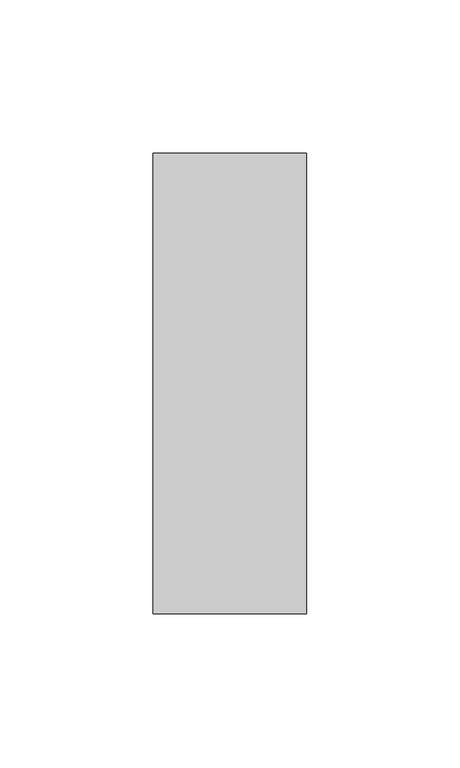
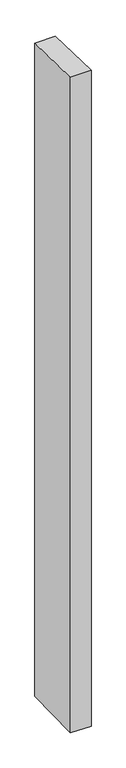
"""IFC4 building model written with IfcOpenShell, lengths in millimetres: member geometry, Прямоугольный импост : 50 x 150 мм."""

from ifc_helpers import new_model, si_unit, origin, place, context, project, spatial, faceted_brep, source, transform, mapped, element, save


def member_d07b245f(model_context):
    return source(origin(), model_context, "Body", "Brep", [
        faceted_brep([(-25.0, 75.0, -2.1268206), (25.0, 75.0, -1.4017274), (25.0, 75.0, -1682.6178083), (-25.0, 75.0, -1681.668565), (-25.0, -75.0, 1.4017274), (-25.0, -75.0, -1684.8420789), (25.0, -75.0, 2.1268206), (25.0, -75.0, -1685.7913221)], [[[0, 1, 2, 3]], [[4, 0, 3, 5]], [[6, 4, 5, 7]], [[1, 6, 7, 2]], [[1, 0, 4, 6]], [[2, 7, 5, 3]]]),
    ])


if __name__ == "__main__":
    model = new_model("IFC4")
    model_context = context("Model", 3, world=origin())
    ifc_project = project(units=[si_unit("LENGTHUNIT", "METRE", prefix="MILLI")], contexts=[model_context])
    site = spatial("IfcSite", under=ifc_project)
    building = spatial("IfcBuilding", under=site)
    placement = place(None, origin())
    member_shape = member_d07b245f(model_context)
    element("IfcMember", 1, ObjectType="Прямоугольный импост : 50 x 150 мм", at=placement, inside=building, context=model_context, shape_type="MappedRepresentation", body=[
        mapped(member_shape, transform((0.0, 0.0, 0.0), x_axis=(1.0, 0.0, 0.0), y_axis=(0.0, 1.0, 0.0), z_axis=(0.0, 0.0, 1.0))),
    ])
    save(model, "model.ifc")
